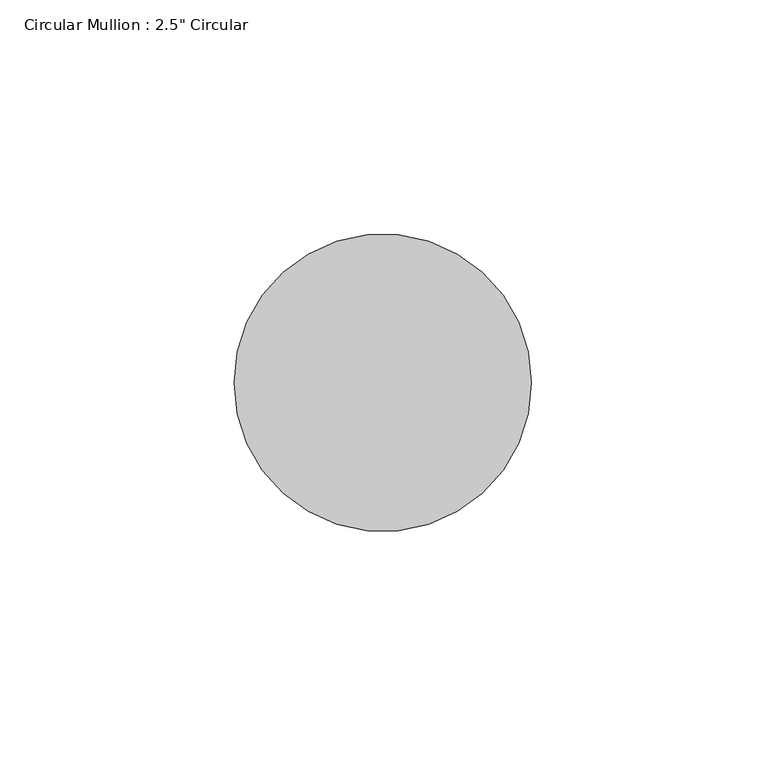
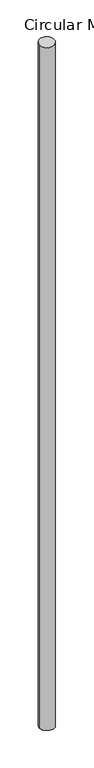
"""IFC4 building model written with IfcOpenShell, lengths in millimetres: member geometry."""

import ifcopenshell
import ifcopenshell.guid

model = None  # the IFC model being written
_history = None  # IfcOwnerHistory: only IFC2X3 demands one
_inside = {}  # id of a spatial element -> (the spatial element, [elements in it])
_under = {}  # id of a project, library or spatial element -> (it, [spatial elements below it])
_declared = {}  # id of a project -> (the project, [libraries it declares])
_typed = {}  # id of a type object -> (the type object, [elements of that type])
_made_of = {}  # id of a material, layer set ... -> (it, [elements and type objects made of it])


def new_model(schema):
    """Start an empty IFC model of exactly this schema.

    Asked for "IFC4X3", IfcOpenShell would pick the latest addendum, in which some entities
    have other attributes; the version numbers below select the first issue.
    IFC2X3 requires an IfcOwnerHistory on every rooted entity: one is made here for all.
    """
    global model, _history
    if schema == "IFC4X3":
        model = ifcopenshell.file(schema_version=(4, 3, 0, 0))
    else:
        model = ifcopenshell.file(schema=schema)
    _inside.clear()
    _under.clear()
    _declared.clear()
    _typed.clear()
    _made_of.clear()
    _history = None
    if model.schema == "IFC2X3":
        org = make("IfcOrganization", Name="unknown")
        user = make(
            "IfcPersonAndOrganization",
            ThePerson=make("IfcPerson", FamilyName="unknown"),
            TheOrganization=org,
        )
        app = make(
            "IfcApplication",
            ApplicationDeveloper=org,
            Version="unknown",
            ApplicationFullName="unknown",
            ApplicationIdentifier="unknown",
        )
        _history = make(
            "IfcOwnerHistory",
            OwningUser=user,
            OwningApplication=app,
            ChangeAction="ADDED",
            CreationDate=0,
        )
    return model


def make(cls, **values):
    """One entity of the class cls with the attributes given. An attribute that is None is left unset."""
    return model.create_entity(
        cls, **{name: value for name, value in values.items() if value is not None}
    )


def rooted(cls, **values):
    """An entity with a GlobalId (a new one), such as an element, a storey or a relation."""
    return make(cls, GlobalId=ifcopenshell.guid.new(), OwnerHistory=_history, **values)


def si_unit(unit_type, name, prefix=None):
    """IfcSIUnit, for example si_unit("LENGTHUNIT", "METRE", prefix="MILLI")."""
    return make("IfcSIUnit", UnitType=unit_type, Prefix=prefix, Name=name)


def assignment(units):
    """IfcUnitAssignment: the units of a project."""
    return None if units is None else make("IfcUnitAssignment", Units=units)


def point(xyz):
    """IfcCartesianPoint."""
    return None if xyz is None else make("IfcCartesianPoint", Coordinates=xyz)


def direction(xyz):
    """IfcDirection."""
    return None if xyz is None else make("IfcDirection", DirectionRatios=xyz)


def frame(location, z_axis=None, x_axis=None):
    """IfcAxis2Placement3D, a coordinate frame: its origin and axes. An axis left out is left unset."""
    return make(
        "IfcAxis2Placement3D",
        Location=point(location),
        Axis=direction(z_axis),
        RefDirection=direction(x_axis),
    )


def origin():
    """The frame at (0, 0, 0) with its axes left unset."""
    return frame((0.0, 0.0, 0.0))


def place(relative_to, where):
    """IfcLocalPlacement: puts the frame where relative to a parent placement (None: the world)."""
    return make(
        "IfcLocalPlacement", PlacementRelTo=relative_to, RelativePlacement=where
    )


def context(
    kind, dimensions, precision=None, world=None, true_north=None, identifier=None
):
    """IfcGeometricRepresentationContext, for example the 3D "Model" context."""
    return make(
        "IfcGeometricRepresentationContext",
        ContextIdentifier=identifier,
        ContextType=kind,
        CoordinateSpaceDimension=dimensions,
        Precision=precision,
        WorldCoordinateSystem=world,
        TrueNorth=true_north,
    )


def project(units=None, contexts=None):
    """IfcProject with its units and contexts."""
    return rooted(
        "IfcProject",
        Name="project",
        RepresentationContexts=contexts,
        UnitsInContext=assignment(units),
    )


def spatial(cls, under=None, at=None, **own):
    """A site, building, storey or space (cls), placed at a placement, below another one or the project."""
    s = rooted(cls, ObjectPlacement=at, **own)
    if under is not None:
        _under.setdefault(under.id(), (under, []))[1].append(s)
    return s


def ellipse_curve(where, semi_axis1, semi_axis2):
    """IfcEllipse in the frame where."""
    return make(
        "IfcEllipse", Position=where, SemiAxis1=semi_axis1, SemiAxis2=semi_axis2
    )


def shape(context_of_items, identifier, shape_type, items):
    """IfcShapeRepresentation: the items that make up one representation, for example the "Body"."""
    return make(
        "IfcShapeRepresentation",
        ContextOfItems=context_of_items,
        RepresentationIdentifier=identifier,
        RepresentationType=shape_type,
        Items=items,
    )


def source(mapping_origin, context_of_items, identifier, shape_type, items):
    """IfcRepresentationMap: a shape defined once, which mapped items show again and again."""
    return make(
        "IfcRepresentationMap",
        MappingOrigin=mapping_origin,
        MappedRepresentation=shape(context_of_items, identifier, shape_type, items),
    )


def transform(
    local_origin,
    x_axis=None,
    y_axis=None,
    z_axis=None,
    scale=None,
    scale2=None,
    scale3=None,
    uniform=True,
):
    """IfcCartesianTransformationOperator3D, or its non-uniform kind. x_axis, y_axis, z_axis: its Axis1, 2, 3."""
    if uniform:
        return make(
            "IfcCartesianTransformationOperator3D",
            Axis1=direction(x_axis),
            Axis2=direction(y_axis),
            LocalOrigin=point(local_origin),
            Scale=scale,
            Axis3=direction(z_axis),
        )
    return make(
        "IfcCartesianTransformationOperator3DnonUniform",
        Axis1=direction(x_axis),
        Axis2=direction(y_axis),
        LocalOrigin=point(local_origin),
        Scale=scale,
        Axis3=direction(z_axis),
        Scale2=scale2,
        Scale3=scale3,
    )


def mapped(mapping_source, mapping_target):
    """IfcMappedItem: shows the shape of a source again, moved by a transform."""
    return make(
        "IfcMappedItem", MappingSource=mapping_source, MappingTarget=mapping_target
    )


def made_of(thing, what):
    """Note that an element or type object is made of a material, layer set ...; save() writes the relation."""
    if what is not None:
        _made_of.setdefault(what.id(), (what, []))[1].append(thing)
    return thing


def element(
    cls,
    number,
    at=None,
    inside=None,
    cuts=None,
    type_object=None,
    material=None,
    context=None,
    identifier="Body",
    shape_type=None,
    held_by="IfcProductDefinitionShape",
    body=None,
    shapes=None,
    **own,
):
    """One element of the class cls, such as IfcWall. Its Tag is "e" and its number.

    at: its placement. inside: the storey or other place that contains it. cuts: it is an
    opening in that element (IfcRelVoidsElement). A single representation is given by context,
    identifier, shape_type and body (its items); several are given by shapes. held_by: the class
    of the entity that holds the representations. save() writes the other relations.
    """
    e = rooted(cls, Tag="e%d" % number, ObjectPlacement=at, **own)
    if body is not None:
        shapes = [shape(context, identifier, shape_type, body)]
    if shapes is not None:
        e.Representation = make(held_by, Representations=shapes)
    if inside is not None:
        _inside.setdefault(inside.id(), (inside, []))[1].append(e)
    if cuts is not None:
        rooted(
            "IfcRelVoidsElement", RelatingBuildingElement=cuts, RelatedOpeningElement=e
        )
    if type_object is not None:
        _typed.setdefault(type_object.id(), (type_object, []))[1].append(e)
    return made_of(e, material)


def aggregate(whole, parts):
    """IfcRelAggregates: a whole, such as a stair, and the parts it consists of."""
    return rooted("IfcRelAggregates", RelatingObject=whole, RelatedObjects=parts)


def save(model, path):
    """Write the relations noted so far, then the file.

    IfcRelAggregates (storeys below a building ...), IfcRelContainedInSpatialStructure (elements
    in a storey), IfcRelDefinesByType, IfcRelAssociatesMaterial and IfcRelDeclares: one each for
    every whole, place, type object, material and project.
    """
    for whole, parts in _under.values():
        aggregate(whole, parts)
    for where, things in _inside.values():
        rooted(
            "IfcRelContainedInSpatialStructure",
            RelatedElements=things,
            RelatingStructure=where,
        )
    for kind, things in _typed.values():
        rooted("IfcRelDefinesByType", RelatedObjects=things, RelatingType=kind)
    for what, things in _made_of.values():
        rooted("IfcRelAssociatesMaterial", RelatedObjects=things, RelatingMaterial=what)
    for by, libraries in _declared.values():
        rooted("IfcRelDeclares", RelatingContext=by, RelatedDefinitions=libraries)
    model.write(path)


def plane_surface(at):
    """IfcPlane: the flat surface through the origin of the frame at, square to its z axis."""
    return make("IfcPlane", Position=at)


def cylinder_surface(at, radius):
    """IfcCylindricalSurface: all points at the distance radius from the z axis of the frame at."""
    return make("IfcCylindricalSurface", Position=at, Radius=radius)


def advanced_brep(points, edges, surfaces, faces):
    """IfcAdvancedBrep: a solid bounded by faces that lie on surfaces and meet in shared edges.

    An edge is (start, end): straight between two places in points (the first is 0);
    or (start, end, curve); or (start, end, curve, False) where it runs against its curve.
    A face is (place in surfaces, loops), or (place, loops, False) where it looks against
    its surface's normal. A loop lists edges by number (the first is 1), with a minus sign
    where the edge is run from its end to its start. The first loop is the outer one.
    """
    corners = [point(p) for p in points]
    vertices = [make("IfcVertexPoint", VertexGeometry=c) for c in corners]
    made = []
    for start, end, *more in edges:
        made.append(
            make(
                "IfcEdgeCurve",
                EdgeStart=vertices[start],
                EdgeEnd=vertices[end],
                EdgeGeometry=more[0] if more else make("IfcPolyline", Points=[corners[start], corners[end]]),
                SameSense=more[1] if len(more) > 1 else True,
            )
        )
    hull = []
    for where, loops, *sense in faces:
        bounds = []
        for j, loop in enumerate(loops):
            ring = [make("IfcOrientedEdge", EdgeElement=made[abs(k) - 1], Orientation=k > 0) for k in loop]
            bounds.append(
                make(
                    "IfcFaceOuterBound" if j == 0 else "IfcFaceBound",
                    Bound=make("IfcEdgeLoop", EdgeList=ring),
                    Orientation=True,
                )
            )
        hull.append(make("IfcAdvancedFace", Bounds=bounds, FaceSurface=surfaces[where], SameSense=sense[0] if sense else True))
    return make("IfcAdvancedBrep", Outer=make("IfcClosedShell", CfsFaces=hull))


def member_f76e1363(model_context):
    return source(origin(), model_context, "Body", "AdvancedBrep", [
        advanced_brep(
        [(-63.5, 0.0, -1.4582258), (0.0, 0.0, 0.0), (0.0, 0.0, -3039.1506883), (-63.5, 0.0, -3037.7680047)],
        [
            (0, 1, ellipse_curve(frame((-31.75, 0.0, -0.7291129), z_axis=(0.02291457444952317, 0.061571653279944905, -0.9978395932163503), x_axis=(0.3480362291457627, 0.9351762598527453, 0.06569738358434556)), 31.8187414, 31.75)),
            (1, 2),
            (2, 3, ellipse_curve(frame((-31.75, 0.0, -3038.4593465), z_axis=(0.021732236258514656, 0.058394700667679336, 0.9980569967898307), x_axis=(-0.34811205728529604, -0.9353800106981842, 0.06230755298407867)), 31.8118104, 31.75)),
            (3, 0),
            (1, 0, ellipse_curve(frame((-31.75, 0.0, -0.7291129), z_axis=(0.02291457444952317, 0.061571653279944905, -0.9978395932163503), x_axis=(0.3480362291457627, 0.9351762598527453, 0.06569738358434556)), 31.8187414, 31.75)),
            (3, 2, ellipse_curve(frame((-31.75, 0.0, -3038.4593465), z_axis=(0.021732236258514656, 0.058394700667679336, 0.9980569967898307), x_axis=(-0.34811205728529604, -0.9353800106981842, 0.06230755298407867)), 31.8118104, 31.75)),
        ],
        [
            cylinder_surface(frame((-31.75, 0.0, 0.0), z_axis=(0.0, 0.0, 1.0), x_axis=(1.0, 0.0, 0.0)), 31.75),
            plane_surface(frame((285.6588633, -106.3111179, 0.0), z_axis=(-0.022914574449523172, -0.06157165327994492, 0.9978395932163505), x_axis=(-0.34803622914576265, -0.9351762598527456, -0.06569738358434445))),
            plane_surface(frame((285.6588633, -106.3111179, -3039.1506883), z_axis=(-0.021732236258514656, -0.058394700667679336, -0.9980569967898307), x_axis=(-0.3481120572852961, -0.9353800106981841, 0.06230755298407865))),
        ],
        [
            (0, [[1, 2, 3, 4]]),
            (0, [[5, -4, 6, -2]]),
            (1, [[-1, -5]]),
            (2, [[-6, -3]]),
        ],
    ),
    ])


if __name__ == "__main__":
    model = new_model("IFC4")
    model_context = context("Model", 3, world=origin())
    ifc_project = project(units=[si_unit("LENGTHUNIT", "METRE", prefix="MILLI")], contexts=[model_context])
    site = spatial("IfcSite", under=ifc_project)
    building = spatial("IfcBuilding", under=site)
    placement = place(None, origin())
    member_shape = member_f76e1363(model_context)
    element("IfcMember", 1, ObjectType="Circular Mullion : 2.5\" Circular", at=placement, inside=building, context=model_context, shape_type="MappedRepresentation", body=[
        mapped(member_shape, transform((0.0, 0.0, 0.0), x_axis=(1.0, 0.0, 0.0), y_axis=(0.0, 1.0, 0.0), z_axis=(0.0, 0.0, 1.0))),
    ])
    save(model, "model.ifc")
